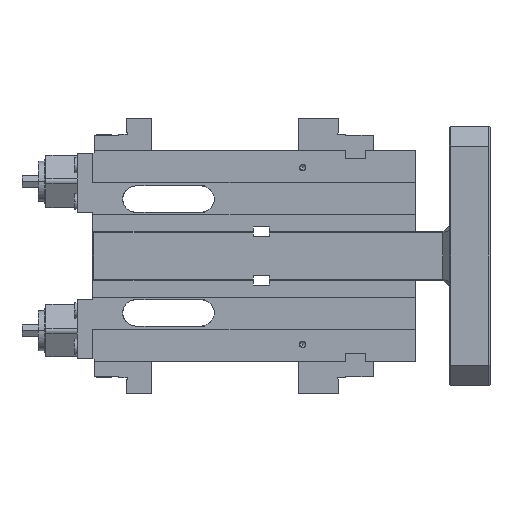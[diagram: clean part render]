
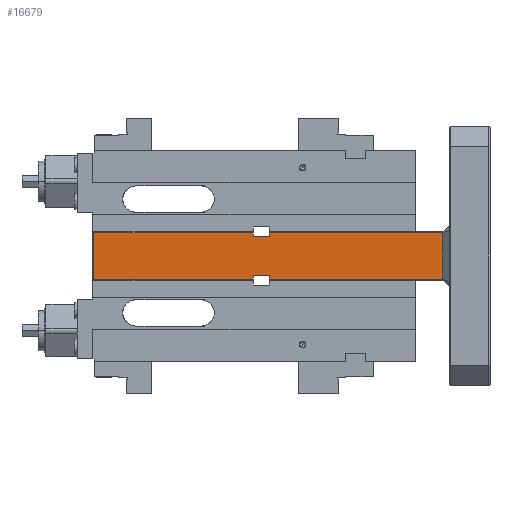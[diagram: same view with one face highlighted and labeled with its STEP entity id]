
A CAD part, left-side view. The second image highlights one B-rep face of the part: STEP entity #16679.
In plain terms, the highlighted planar face has unit normal (-1, 0, 0).
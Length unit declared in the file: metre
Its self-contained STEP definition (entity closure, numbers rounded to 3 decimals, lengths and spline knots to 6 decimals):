
#25=DIRECTION('',(0.,0.,-1.));
#26=VECTOR('',#25,0.0045);
#27=CARTESIAN_POINT('',(0.085,0.292,-0.174));
#28=LINE('',#27,#26);
#3657=DIRECTION('',(0.,0.,1.));
#3658=VECTOR('',#3657,0.0045);
#3659=CARTESIAN_POINT('',(0.085,0.272,-0.1785));
#3660=LINE('',#3659,#3658);
#3753=DIRECTION('',(0.,0.,1.));
#3754=VECTOR('',#3753,0.057);
#3755=CARTESIAN_POINT('',(0.085,0.058,-0.1785));
#3756=LINE('',#3755,#3754);
#3761=DIRECTION('',(0.,-1.,0.));
#3762=VECTOR('',#3761,0.214);
#3763=CARTESIAN_POINT('',(0.085,0.272,-0.1215));
#3764=LINE('',#3763,#3762);
#7040=DIRECTION('',(0.,0.,1.));
#7041=VECTOR('',#7040,0.0045);
#7042=CARTESIAN_POINT('',(0.085,0.272,-0.126));
#7043=LINE('',#7042,#7041);
#7084=DIRECTION('',(0.,0.,-1.));
#7085=VECTOR('',#7084,0.0045);
#7086=CARTESIAN_POINT('',(0.085,0.292,-0.1215));
#7087=LINE('',#7086,#7085);
#7154=DIRECTION('',(0.,-1.,0.));
#7155=VECTOR('',#7154,0.02);
#7156=CARTESIAN_POINT('',(0.085,0.292,-0.126));
#7157=LINE('',#7156,#7155);
#7366=DIRECTION('',(0.,1.,0.));
#7367=VECTOR('',#7366,0.02);
#7368=CARTESIAN_POINT('',(0.085,0.272,-0.174));
#7369=LINE('',#7368,#7367);
#7404=DIRECTION('',(0.,-1.,0.));
#7405=VECTOR('',#7404,0.1965);
#7406=CARTESIAN_POINT('',(0.085,0.4885,-0.1215));
#7407=LINE('',#7406,#7405);
#7412=DIRECTION('',(0.,0.,1.));
#7413=VECTOR('',#7412,0.057);
#7414=CARTESIAN_POINT('',(0.085,0.4885,-0.1785));
#7415=LINE('',#7414,#7413);
#7416=DIRECTION('',(0.,1.,0.));
#7417=VECTOR('',#7416,0.1965);
#7418=CARTESIAN_POINT('',(0.085,0.292,-0.1785));
#7419=LINE('',#7418,#7417);
#7800=DIRECTION('',(0.,1.,0.));
#7801=VECTOR('',#7800,0.214);
#7802=CARTESIAN_POINT('',(0.085,0.058,-0.1785));
#7803=LINE('',#7802,#7801);
#10047=CARTESIAN_POINT('',(0.085,0.058,-0.1785));
#10048=CARTESIAN_POINT('',(0.085,0.058,-0.1215));
#10049=VERTEX_POINT('',#10047);
#10050=VERTEX_POINT('',#10048);
#10051=CARTESIAN_POINT('',(0.085,0.272,-0.1785));
#10052=VERTEX_POINT('',#10051);
#10053=CARTESIAN_POINT('',(0.085,0.272,-0.174));
#10054=VERTEX_POINT('',#10053);
#10055=CARTESIAN_POINT('',(0.085,0.292,-0.174));
#10056=VERTEX_POINT('',#10055);
#10057=CARTESIAN_POINT('',(0.085,0.292,-0.1785));
#10058=VERTEX_POINT('',#10057);
#10059=CARTESIAN_POINT('',(0.085,0.4885,-0.1785));
#10060=VERTEX_POINT('',#10059);
#10061=CARTESIAN_POINT('',(0.085,0.4885,-0.1215));
#10062=VERTEX_POINT('',#10061);
#10063=CARTESIAN_POINT('',(0.085,0.292,-0.1215));
#10064=VERTEX_POINT('',#10063);
#10065=CARTESIAN_POINT('',(0.085,0.292,-0.126));
#10066=VERTEX_POINT('',#10065);
#10067=CARTESIAN_POINT('',(0.085,0.272,-0.126));
#10068=VERTEX_POINT('',#10067);
#10069=CARTESIAN_POINT('',(0.085,0.272,-0.1215));
#10070=VERTEX_POINT('',#10069);
#16651=CARTESIAN_POINT('',(0.085,0.05,-0.12));
#16652=DIRECTION('',(1.,0.,0.));
#16653=DIRECTION('',(0.,1.,0.));
#16654=AXIS2_PLACEMENT_3D('',#16651,#16652,#16653);
#16655=PLANE('',#16654);
#16657=ORIENTED_EDGE('',*,*,#16656,.T.);
#16658=ORIENTED_EDGE('',*,*,#16643,.F.);
#16660=ORIENTED_EDGE('',*,*,#16659,.T.);
#16661=ORIENTED_EDGE('',*,*,#16435,.T.);
#16663=ORIENTED_EDGE('',*,*,#16662,.T.);
#16664=ORIENTED_EDGE('',*,*,#12138,.T.);
#16666=ORIENTED_EDGE('',*,*,#16665,.T.);
#16668=ORIENTED_EDGE('',*,*,#16667,.T.);
#16670=ORIENTED_EDGE('',*,*,#16669,.T.);
#16672=ORIENTED_EDGE('',*,*,#16671,.T.);
#16674=ORIENTED_EDGE('',*,*,#16673,.T.);
#16676=ORIENTED_EDGE('',*,*,#16675,.T.);
#16677=EDGE_LOOP('',(#16657,#16658,#16660,#16661,#16663,#16664,#16666,#16668,
#16670,#16672,#16674,#16676));
#16678=FACE_OUTER_BOUND('',#16677,.F.);
#16679=ADVANCED_FACE('',(#16678),#16655,.F.);
#12138=EDGE_CURVE('',#10056,#10058,#28,.T.);
#16435=EDGE_CURVE('',#10052,#10054,#3660,.T.);
#16643=EDGE_CURVE('',#10049,#10050,#3756,.T.);
#16656=EDGE_CURVE('',#10070,#10050,#3764,.T.);
#16659=EDGE_CURVE('',#10049,#10052,#7803,.T.);
#16662=EDGE_CURVE('',#10054,#10056,#7369,.T.);
#16665=EDGE_CURVE('',#10058,#10060,#7419,.T.);
#16667=EDGE_CURVE('',#10060,#10062,#7415,.T.);
#16669=EDGE_CURVE('',#10062,#10064,#7407,.T.);
#16671=EDGE_CURVE('',#10064,#10066,#7087,.T.);
#16673=EDGE_CURVE('',#10066,#10068,#7157,.T.);
#16675=EDGE_CURVE('',#10068,#10070,#7043,.T.);
